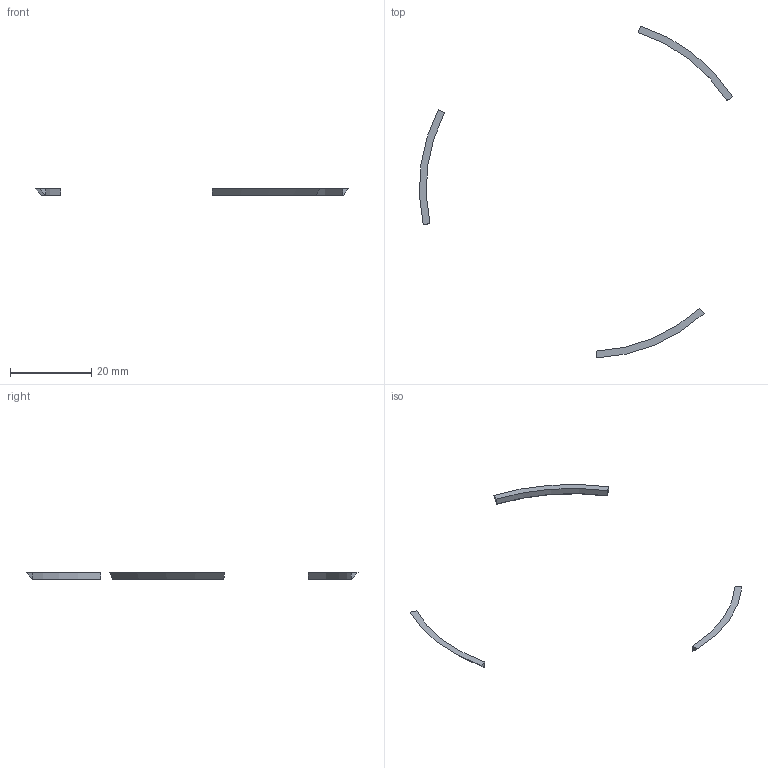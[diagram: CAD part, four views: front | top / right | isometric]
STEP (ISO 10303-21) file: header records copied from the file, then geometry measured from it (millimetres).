
FILE_DESCRIPTION(('Open CASCADE Model'),'2;1');
FILE_NAME('Open CASCADE Shape Model','2026-09-09T22:54:29',('Author'),( 'Open CASCADE'),'Open CASCADE STEP processor 7.9','Open CASCADE 7.9' ,'Unknown');
FILE_SCHEMA(('AUTOMOTIVE_DESIGN { 1 0 10303 214 1 1 1 1 }'));
Length unit declared in the file: millimetre
Products named in the file (4): Open CASCADE STEP translator 7.9 1; Open CASCADE STEP translator 7.9 1.1; Open CASCADE STEP translator 7.9 1.2; Open CASCADE STEP translator 7.9 1.3
Assembly tree (3 placements, depth 2):
  Open CASCADE STEP translator 7.9 1
    Open CASCADE STEP translator 7.9 1.1
    Open CASCADE STEP translator 7.9 1.2
    Open CASCADE STEP translator 7.9 1.3
Bounding box: 77.01 x 81.63 x 1.6 mm (x, y, z)
Volume: 122.7 mm3; surface area: 491.5 mm2
Topology: 3 solids, 3 shells, 18 faces, 36 edges, 24 vertices
Faces by surface type: plane 12, cone 3, cylinder 3
Entity records: 532 total; most frequent: DIRECTION 92, CARTESIAN_POINT 82, ORIENTED_EDGE 72, EDGE_CURVE 36, AXIS2_PLACEMENT_3D 34, VERTEX_POINT 24, LINE 24, VECTOR 24
